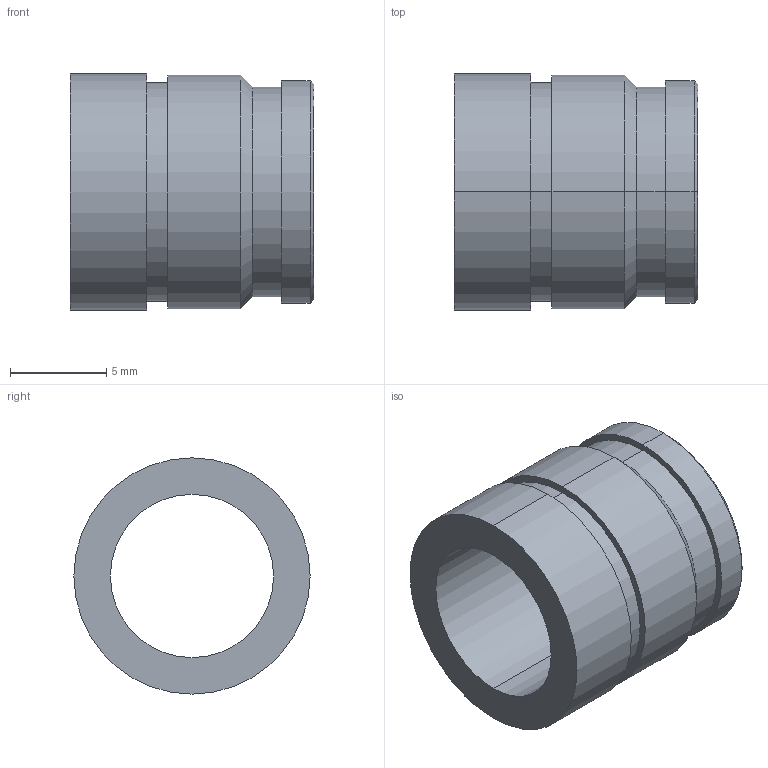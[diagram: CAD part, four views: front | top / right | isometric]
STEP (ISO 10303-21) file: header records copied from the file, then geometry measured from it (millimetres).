
FILE_DESCRIPTION (( 'STEP AP203' ), '1' );
FILE_NAME ('FSUK-HIS-M10-S.STEP', '2021-04-15T08:47:03', ( '' ), ( '' ), 'SwSTEP 2.0', 'SolidWorks 2021', '' );
FILE_SCHEMA (( 'CONFIG_CONTROL_DESIGN' ));
Length unit declared in the file: millimetre
Products named in the file (1): FSUK-HIS-M10-S
Bounding box: 12.7 x 12.3 x 12.3 mm (x, y, z)
Volume: 679.7 mm3; surface area: 960.5 mm2
Topology: 1 solids, 1 shells, 23 faces, 46 edges, 28 vertices
Faces by surface type: cylinder 12, cone 6, plane 5
Entity records: 685 total; most frequent: DIRECTION 122, CARTESIAN_POINT 98, ORIENTED_EDGE 92, AXIS2_PLACEMENT_3D 52, EDGE_CURVE 46, CIRCLE 28, EDGE_LOOP 28, VERTEX_POINT 28
